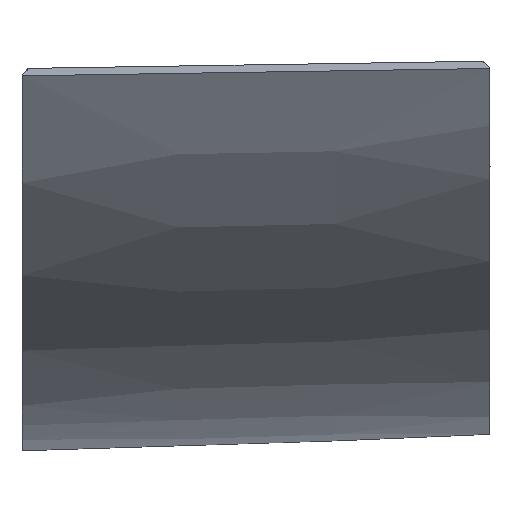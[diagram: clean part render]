
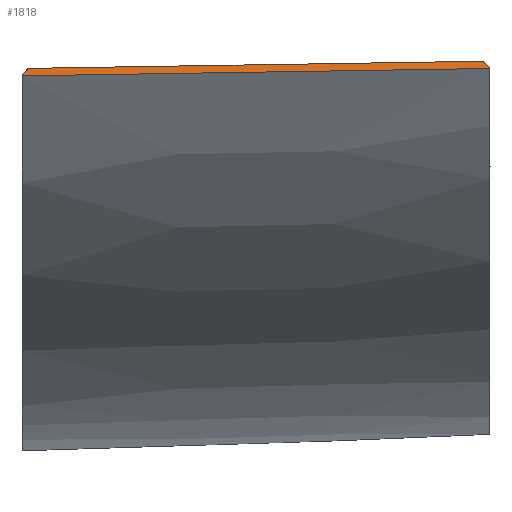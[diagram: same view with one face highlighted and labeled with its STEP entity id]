
A CAD part, top view. The second image highlights one B-rep face of the part: STEP entity #1818.
In plain terms, the highlighted free-form (B-spline) face has degree [1, 3] with [2, 4] control points.
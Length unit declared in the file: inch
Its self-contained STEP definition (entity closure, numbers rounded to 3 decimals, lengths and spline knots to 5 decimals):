
#41 = EDGE_CURVE ( 'NONE', #2399, #1232, #2564, .T. ) ;
#81 = CARTESIAN_POINT ( 'NONE',  ( -24.37301, -138.43398, 31.80358 ) ) ;
#108 = CARTESIAN_POINT ( 'NONE',  ( -31.99728, -138.93001, 32.66021 ) ) ;
#126 = EDGE_CURVE ( 'NONE', #1815, #2399, #1014, .T. ) ;
#275 = CARTESIAN_POINT ( 'NONE',  ( -39.95562, -139.055, 32.87672 ) ) ;
#278 = FACE_OUTER_BOUND ( 'NONE', #1243, .T. ) ;
#308 = CARTESIAN_POINT ( 'NONE',  ( -24.0625, -138.4291, 31.79514 ) ) ;
#378 = ORIENTED_EDGE ( 'NONE', *, *, #512, .T. ) ;
#404 = CARTESIAN_POINT ( 'NONE',  ( -32.12434, -138.55573, 32.01446 ) ) ;
#455 = CARTESIAN_POINT ( 'NONE',  ( -24.37301, -138.43398, 31.80358 ) ) ;
#464 = CARTESIAN_POINT ( 'NONE',  ( -47.9375, -138.8041, 32.44466 ) ) ;
#477 = CARTESIAN_POINT ( 'NONE',  ( -39.97917, -138.6791, 32.22815 ) ) ;
#512 = EDGE_CURVE ( 'NONE', #1622, #1815, #2536, .T. ) ;
#605 = CARTESIAN_POINT ( 'NONE',  ( -47.62699, -138.79922, 32.43621 ) ) ;
#634 = CARTESIAN_POINT ( 'NONE',  ( -39.87566, -138.67747, 32.22534 ) ) ;
#806 = CARTESIAN_POINT ( 'NONE',  ( -47.62699, -138.79922, 32.43621 ) ) ;
#816 = EDGE_CURVE ( 'NONE', #1622, #1232, #1823, .T. ) ;
#857 = CARTESIAN_POINT ( 'NONE',  ( -47.72265, -138.92615, 32.65522 ) ) ;
#883 = CARTESIAN_POINT ( 'NONE',  ( -24.03895, -138.80502, 32.4437 ) ) ;
#1014 = B_SPLINE_CURVE_WITH_KNOTS ( 'NONE', 3,
 ( #2413, #404, #634, #806 ),
 .UNSPECIFIED., .F., .F.,
 ( 4, 4 ),
 ( 0.01301, 0.98699 ),
 .UNSPECIFIED. ) ;
#1033 = ORIENTED_EDGE ( 'NONE', *, *, #126, .T. ) ;
#1058 = B_SPLINE_SURFACE_WITH_KNOTS ( 'NONE', 1, 3, ( 
 ( #2251, #2264, #2295, #1461 ),
 ( #308, #1514, #477, #464 ) ),
 .UNSPECIFIED., .F., .F., .F.,
 ( 2, 2 ),
 ( 4, 4 ),
 ( 0., 1. ),
 ( -0.30336, 0.30336 ),
 .UNSPECIFIED. ) ;
#1232 = VERTEX_POINT ( 'NONE', #1263 ) ;
#1243 = EDGE_LOOP ( 'NONE', ( #1033, #2129, #2387, #378 ) ) ;
#1263 = CARTESIAN_POINT ( 'NONE',  ( -47.91395, -139.18, 33.09323 ) ) ;
#1438 = CARTESIAN_POINT ( 'NONE',  ( -24.26166, -138.55766, 32.01696 ) ) ;
#1461 = CARTESIAN_POINT ( 'NONE',  ( -47.91395, -139.18, 33.09323 ) ) ;
#1514 = CARTESIAN_POINT ( 'NONE',  ( -32.02083, -138.5541, 32.01164 ) ) ;
#1599 = CARTESIAN_POINT ( 'NONE',  ( -47.62699, -138.79922, 32.43621 ) ) ;
#1622 = VERTEX_POINT ( 'NONE', #883 ) ;
#1634 = CARTESIAN_POINT ( 'NONE',  ( -47.8183, -139.05307, 32.87422 ) ) ;
#1645 = CARTESIAN_POINT ( 'NONE',  ( -24.03895, -138.80502, 32.4437 ) ) ;
#1706 = CARTESIAN_POINT ( 'NONE',  ( -24.03895, -138.80502, 32.4437 ) ) ;
#1815 = VERTEX_POINT ( 'NONE', #81 ) ;
#1818 = ADVANCED_FACE ( 'NONE', ( #278 ), #1058, .T. ) ;
#1823 = B_SPLINE_CURVE_WITH_KNOTS ( 'NONE', 3,
 ( #1706, #108, #275, #2065 ),
 .UNSPECIFIED., .F., .F.,
 ( 4, 4 ),
 ( 0., 1. ),
 .UNSPECIFIED. ) ;
#2065 = CARTESIAN_POINT ( 'NONE',  ( -47.91395, -139.18, 33.09323 ) ) ;
#2129 = ORIENTED_EDGE ( 'NONE', *, *, #41, .T. ) ;
#2241 = CARTESIAN_POINT ( 'NONE',  ( -24.1503, -138.68134, 32.23033 ) ) ;
#2251 = CARTESIAN_POINT ( 'NONE',  ( -24.03895, -138.80502, 32.4437 ) ) ;
#2264 = CARTESIAN_POINT ( 'NONE',  ( -31.99728, -138.93001, 32.66021 ) ) ;
#2295 = CARTESIAN_POINT ( 'NONE',  ( -39.95562, -139.055, 32.87672 ) ) ;
#2387 = ORIENTED_EDGE ( 'NONE', *, *, #816, .F. ) ;
#2399 = VERTEX_POINT ( 'NONE', #605 ) ;
#2413 = CARTESIAN_POINT ( 'NONE',  ( -24.37301, -138.43398, 31.80358 ) ) ;
#2424 = CARTESIAN_POINT ( 'NONE',  ( -47.91395, -139.18, 33.09323 ) ) ;
#2536 = B_SPLINE_CURVE_WITH_KNOTS ( 'NONE', 3,
 ( #1645, #2241, #1438, #455 ),
 .UNSPECIFIED., .F., .F.,
 ( 4, 4 ),
 ( 0., 1. ),
 .UNSPECIFIED. ) ;
#2564 = B_SPLINE_CURVE_WITH_KNOTS ( 'NONE', 3,
 ( #1599, #857, #1634, #2424 ),
 .UNSPECIFIED., .F., .F.,
 ( 4, 4 ),
 ( 0., 1. ),
 .UNSPECIFIED. ) ;
